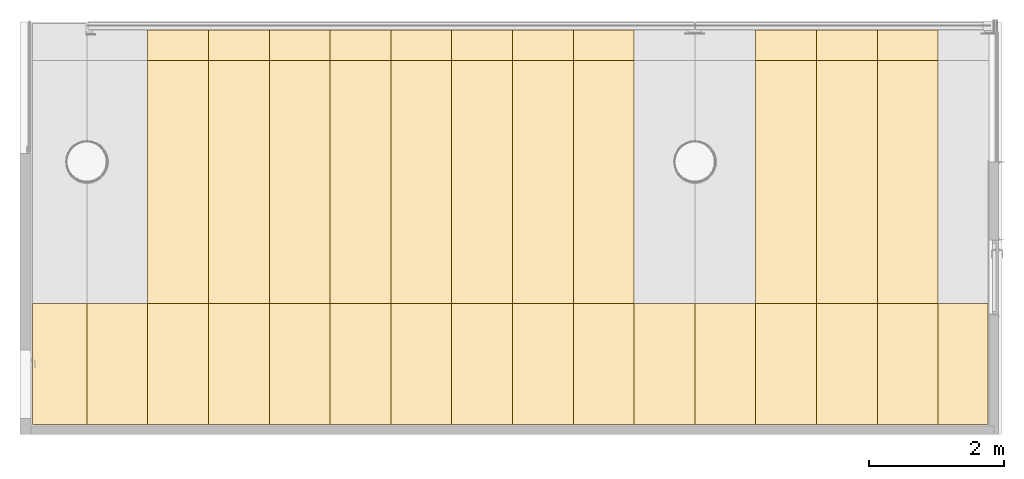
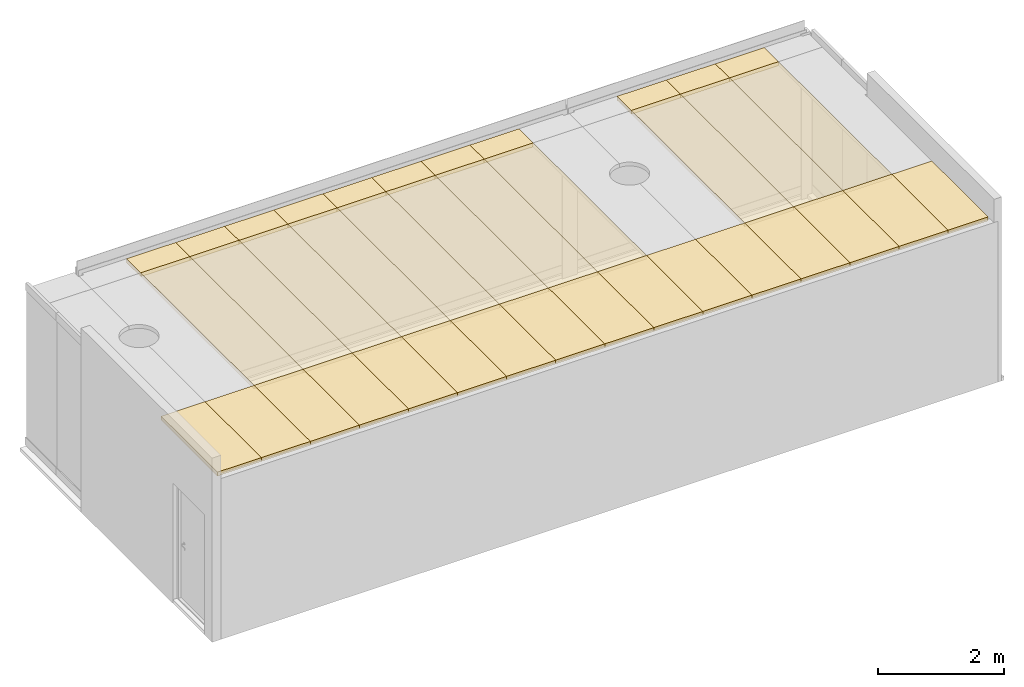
# One storey, part 11 of 12: 38 coverings, 1 element without a shape of its own.
"""IFC2X3 building model written with IfcOpenShell, lengths in millimetres."""

import ifcopenshell
import ifcopenshell.guid

model = None  # the IFC model being written
_history = None  # IfcOwnerHistory: only IFC2X3 demands one
_inside = {}  # id of a spatial element -> (the spatial element, [elements in it])
_under = {}  # id of a project, library or spatial element -> (it, [spatial elements below it])
_declared = {}  # id of a project -> (the project, [libraries it declares])
_typed = {}  # id of a type object -> (the type object, [elements of that type])
_made_of = {}  # id of a material, layer set ... -> (it, [elements and type objects made of it])


def new_model(schema):
    """Start an empty IFC model of exactly this schema.

    Asked for "IFC4X3", IfcOpenShell would pick the latest addendum, in which some entities
    have other attributes; the version numbers below select the first issue.
    IFC2X3 requires an IfcOwnerHistory on every rooted entity: one is made here for all.
    """
    global model, _history
    if schema == "IFC4X3":
        model = ifcopenshell.file(schema_version=(4, 3, 0, 0))
    else:
        model = ifcopenshell.file(schema=schema)
    _inside.clear()
    _under.clear()
    _declared.clear()
    _typed.clear()
    _made_of.clear()
    _history = None
    if model.schema == "IFC2X3":
        org = make("IfcOrganization", Name="unknown")
        user = make(
            "IfcPersonAndOrganization",
            ThePerson=make("IfcPerson", FamilyName="unknown"),
            TheOrganization=org,
        )
        app = make(
            "IfcApplication",
            ApplicationDeveloper=org,
            Version="unknown",
            ApplicationFullName="unknown",
            ApplicationIdentifier="unknown",
        )
        _history = make(
            "IfcOwnerHistory",
            OwningUser=user,
            OwningApplication=app,
            ChangeAction="ADDED",
            CreationDate=0,
        )
    return model


def make(cls, **values):
    """One entity of the class cls with the attributes given. An attribute that is None is left unset."""
    return model.create_entity(
        cls, **{name: value for name, value in values.items() if value is not None}
    )


def entity(cls, *values):
    """Any entity or typed value of the class cls, its attributes in the order of the schema. None: left unset."""
    e = model.create_entity(cls)
    for i, value in enumerate(values):
        if value is not None:
            e[i] = value
    return e


def rooted(cls, **values):
    """An entity with a GlobalId (a new one), such as an element, a storey or a relation."""
    return make(cls, GlobalId=ifcopenshell.guid.new(), OwnerHistory=_history, **values)


def si_unit(unit_type, name, prefix=None):
    """IfcSIUnit, for example si_unit("LENGTHUNIT", "METRE", prefix="MILLI")."""
    return make("IfcSIUnit", UnitType=unit_type, Prefix=prefix, Name=name)


def converted_unit(unit_type, name, factor, base, dimensions=None, offset=None):
    """IfcConversionBasedUnit, such as the inch: factor (a typed value) times the base unit."""
    return make(
        "IfcConversionBasedUnit"
        if offset is None
        else "IfcConversionBasedUnitWithOffset",
        ConversionOffset=offset,
        Dimensions=None
        if dimensions is None
        else entity("IfcDimensionalExponents", *dimensions),
        UnitType=unit_type,
        Name=name,
        ConversionFactor=make(
            "IfcMeasureWithUnit", ValueComponent=factor, UnitComponent=base
        ),
    )


def derived_unit(unit_type, elements):
    """IfcDerivedUnit: a product of units, each with its exponent."""
    return make(
        "IfcDerivedUnit",
        Elements=[
            make("IfcDerivedUnitElement", Unit=unit, Exponent=power)
            for unit, power in elements
        ],
        UnitType=unit_type,
    )


def assignment(units):
    """IfcUnitAssignment: the units of a project."""
    return None if units is None else make("IfcUnitAssignment", Units=units)


def point(xyz):
    """IfcCartesianPoint."""
    return None if xyz is None else make("IfcCartesianPoint", Coordinates=xyz)


def direction(xyz):
    """IfcDirection."""
    return None if xyz is None else make("IfcDirection", DirectionRatios=xyz)


def frame(location, z_axis=None, x_axis=None):
    """IfcAxis2Placement3D, a coordinate frame: its origin and axes. An axis left out is left unset."""
    return make(
        "IfcAxis2Placement3D",
        Location=point(location),
        Axis=direction(z_axis),
        RefDirection=direction(x_axis),
    )


def frame_2d(location, x_axis=None):
    """IfcAxis2Placement2D, a coordinate frame in the plane: its origin and x axis."""
    return make(
        "IfcAxis2Placement2D", Location=point(location), RefDirection=direction(x_axis)
    )


def origin():
    """The frame at (0, 0, 0) with its axes left unset."""
    return frame((0.0, 0.0, 0.0))


def origin_with_axes():
    """The frame at (0, 0, 0) with the z axis (0, 0, 1) and the x axis (1, 0, 0) written out."""
    return frame((0.0, 0.0, 0.0), z_axis=(0.0, 0.0, 1.0), x_axis=(1.0, 0.0, 0.0))


def origin_2d_with_axis():
    """The frame at (0, 0) in the plane with the x axis (1, 0) written out."""
    return frame_2d((0.0, 0.0), x_axis=(1.0, 0.0))


def place(relative_to, where):
    """IfcLocalPlacement: puts the frame where relative to a parent placement (None: the world)."""
    return make(
        "IfcLocalPlacement", PlacementRelTo=relative_to, RelativePlacement=where
    )


def context(
    kind, dimensions, precision=None, world=None, true_north=None, identifier=None
):
    """IfcGeometricRepresentationContext, for example the 3D "Model" context."""
    return make(
        "IfcGeometricRepresentationContext",
        ContextIdentifier=identifier,
        ContextType=kind,
        CoordinateSpaceDimension=dimensions,
        Precision=precision,
        WorldCoordinateSystem=world,
        TrueNorth=true_north,
    )


def subcontext(parent, identifier, kind, view, scale=None):
    """IfcGeometricRepresentationSubContext, for example "Body" below "Model"."""
    return make(
        "IfcGeometricRepresentationSubContext",
        ContextIdentifier=identifier,
        ContextType=kind,
        ParentContext=parent,
        TargetScale=scale,
        TargetView=view,
    )


def project(units=None, contexts=None):
    """IfcProject with its units and contexts."""
    return rooted(
        "IfcProject",
        Name="project",
        RepresentationContexts=contexts,
        UnitsInContext=assignment(units),
    )


def spatial(cls, under=None, at=None, **own):
    """A site, building, storey or space (cls), placed at a placement, below another one or the project."""
    s = rooted(cls, ObjectPlacement=at, **own)
    if under is not None:
        _under.setdefault(under.id(), (under, []))[1].append(s)
    return s


def profile(cls, at=None, kind="AREA", **sizes):
    """A parametric profile (cls). Its sizes go by their IFC names, for example OverallWidth=200.0."""
    return make(cls, ProfileType=kind, Position=at, **sizes)


def rectangle(**sizes):
    """IfcRectangleProfileDef."""
    return profile("IfcRectangleProfileDef", **sizes)


def extrude(swept, where, along, depth):
    """IfcExtrudedAreaSolid: the profile swept, set in the frame where, extruded along a direction by depth."""
    return make(
        "IfcExtrudedAreaSolid",
        SweptArea=swept,
        Position=where,
        ExtrudedDirection=direction(along),
        Depth=depth,
    )


def shape(context_of_items, identifier, shape_type, items):
    """IfcShapeRepresentation: the items that make up one representation, for example the "Body"."""
    return make(
        "IfcShapeRepresentation",
        ContextOfItems=context_of_items,
        RepresentationIdentifier=identifier,
        RepresentationType=shape_type,
        Items=items,
    )


def source(mapping_origin, context_of_items, identifier, shape_type, items):
    """IfcRepresentationMap: a shape defined once, which mapped items show again and again."""
    return make(
        "IfcRepresentationMap",
        MappingOrigin=mapping_origin,
        MappedRepresentation=shape(context_of_items, identifier, shape_type, items),
    )


def transform(
    local_origin,
    x_axis=None,
    y_axis=None,
    z_axis=None,
    scale=None,
    scale2=None,
    scale3=None,
    uniform=True,
):
    """IfcCartesianTransformationOperator3D, or its non-uniform kind. x_axis, y_axis, z_axis: its Axis1, 2, 3."""
    if uniform:
        return make(
            "IfcCartesianTransformationOperator3D",
            Axis1=direction(x_axis),
            Axis2=direction(y_axis),
            LocalOrigin=point(local_origin),
            Scale=scale,
            Axis3=direction(z_axis),
        )
    return make(
        "IfcCartesianTransformationOperator3DnonUniform",
        Axis1=direction(x_axis),
        Axis2=direction(y_axis),
        LocalOrigin=point(local_origin),
        Scale=scale,
        Axis3=direction(z_axis),
        Scale2=scale2,
        Scale3=scale3,
    )


def mapped(mapping_source, mapping_target):
    """IfcMappedItem: shows the shape of a source again, moved by a transform."""
    return make(
        "IfcMappedItem", MappingSource=mapping_source, MappingTarget=mapping_target
    )


def material(Name=None, Category=None):
    """IfcMaterial."""
    return make("IfcMaterial", Name=Name, Category=Category)


def made_of(thing, what):
    """Note that an element or type object is made of a material, layer set ...; save() writes the relation."""
    if what is not None:
        _made_of.setdefault(what.id(), (what, []))[1].append(thing)
    return thing


def type_object(cls, material=None, **own):
    """A type object (cls), such as IfcWallType, which elements share."""
    return made_of(rooted(cls, **own), material)


def element(
    cls,
    number,
    at=None,
    inside=None,
    cuts=None,
    type_object=None,
    material=None,
    context=None,
    identifier="Body",
    shape_type=None,
    held_by="IfcProductDefinitionShape",
    body=None,
    shapes=None,
    **own,
):
    """One element of the class cls, such as IfcWall. Its Tag is "e" and its number.

    at: its placement. inside: the storey or other place that contains it. cuts: it is an
    opening in that element (IfcRelVoidsElement). A single representation is given by context,
    identifier, shape_type and body (its items); several are given by shapes. held_by: the class
    of the entity that holds the representations. save() writes the other relations.
    """
    e = rooted(cls, Tag="e%d" % number, ObjectPlacement=at, **own)
    if body is not None:
        shapes = [shape(context, identifier, shape_type, body)]
    if shapes is not None:
        e.Representation = make(held_by, Representations=shapes)
    if inside is not None:
        _inside.setdefault(inside.id(), (inside, []))[1].append(e)
    if cuts is not None:
        rooted(
            "IfcRelVoidsElement", RelatingBuildingElement=cuts, RelatedOpeningElement=e
        )
    if type_object is not None:
        _typed.setdefault(type_object.id(), (type_object, []))[1].append(e)
    return made_of(e, material)


def aggregate(whole, parts):
    """IfcRelAggregates: a whole, such as a stair, and the parts it consists of."""
    return rooted("IfcRelAggregates", RelatingObject=whole, RelatedObjects=parts)


def save(model, path):
    """Write the relations noted so far, then the file.

    IfcRelAggregates (storeys below a building ...), IfcRelContainedInSpatialStructure (elements
    in a storey), IfcRelDefinesByType, IfcRelAssociatesMaterial and IfcRelDeclares: one each for
    every whole, place, type object, material and project.
    """
    for whole, parts in _under.values():
        aggregate(whole, parts)
    for where, things in _inside.values():
        rooted(
            "IfcRelContainedInSpatialStructure",
            RelatedElements=things,
            RelatingStructure=where,
        )
    for kind, things in _typed.values():
        rooted("IfcRelDefinesByType", RelatedObjects=things, RelatingType=kind)
    for what, things in _made_of.values():
        rooted("IfcRelAssociatesMaterial", RelatedObjects=things, RelatingMaterial=what)
    for by, libraries in _declared.values():
        rooted("IfcRelDeclares", RelatingContext=by, RelatedDefinitions=libraries)
    model.write(path)


model = new_model("IFC2X3")

# Units and contexts
model_context = context("Model", 3, precision=0.01, world=frame((0.0, 4.29681676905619e-09, 0.0)), true_north=direction((6.12323399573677e-17, 1.0)))
plan_context = context("Plan", 3, precision=0.01, world=frame((0.0, 4.29681676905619e-09, 0.0)), true_north=direction((6.12323399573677e-17, 1.0)))
body_context = subcontext(model_context, "Body", "Model", "MODEL_VIEW")
ifc_project = project(units=[converted_unit("PLANEANGLEUNIT", "DEGREE", entity("IfcPositiveLengthMeasure", 0.0174532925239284), si_unit("PLANEANGLEUNIT", "RADIAN"), dimensions=[0, 0, 0, 0, 0, 0, 0]), si_unit("AREAUNIT", "SQUARE_METRE"), si_unit("LENGTHUNIT", "METRE", prefix="MILLI"), si_unit("MASSUNIT", "GRAM", prefix="KILO"), si_unit("POWERUNIT", "WATT"), si_unit("PRESSUREUNIT", "PASCAL", prefix="KILO"), si_unit("FORCEUNIT", "NEWTON", prefix="KILO"), si_unit("ELECTRICVOLTAGEUNIT", "VOLT"), si_unit("ELECTRICCURRENTUNIT", "AMPERE"), si_unit("THERMODYNAMICTEMPERATUREUNIT", "DEGREE_CELSIUS"), si_unit("TIMEUNIT", "SECOND"), si_unit("VOLUMEUNIT", "CUBIC_METRE"), derived_unit("LINEARVELOCITYUNIT", [(si_unit("LENGTHUNIT", "METRE"), 1), (si_unit("TIMEUNIT", "SECOND"), -1)]), derived_unit("VOLUMETRICFLOWRATEUNIT", [(si_unit("VOLUMEUNIT", "CUBIC_METRE"), 1), (si_unit("TIMEUNIT", "SECOND"), -1)]), derived_unit("THERMALTRANSMITTANCEUNIT", [(si_unit("POWERUNIT", "WATT"), 1), (si_unit("THERMODYNAMICTEMPERATUREUNIT", "KELVIN"), -1), (si_unit("AREAUNIT", "SQUARE_METRE"), -1)]), derived_unit("SOUNDPRESSUREUNIT", [(si_unit("PRESSUREUNIT", "PASCAL"), 1)])], contexts=[model_context, plan_context])

# Site, building, storey
site_placement = place(None, origin_with_axes())
site = spatial("IfcSite", under=ifc_project, at=site_placement, Name="ENGM", CompositionType="ELEMENT")
building_placement = place(site_placement, origin_with_axes())
building = spatial("IfcBuilding", under=site, at=building_placement, Name="TH", CompositionType="ELEMENT")
storey_placement = place(building_placement, frame((0.0, 0.0, 210200.0), z_axis=(0.0, 0.0, 1.0), x_axis=(1.0, 0.0, 0.0)))
storey = spatial("IfcBuildingStorey", under=building, at=storey_placement, Name="Nivå F - 0,7 m", CompositionType="ELEMENT", Elevation=210200.0)

# Coverings
covering_1_placement = place(storey_placement, frame((0.0, 0.0, -210200.0), z_axis=(0.0, 0.0, 1.0), x_axis=(1.0, 0.0, 0.0)))
covering_1 = element("IfcCovering", 1, at=covering_1_placement, inside=storey, Name="Sloped Glazing:A255 - HI-L01- Lamellhimling", ObjectType="Sloped Glazing:A255 - HI-L01- Lamellhimling", PredefinedType="CEILING")
ifc_material = material(Name="lamellhimling(Panel)")
covering_type_1 = type_object("IfcCoveringType", Name="A255 - HI-L01 - Panel:A255 - HI-L01 - Panel", PredefinedType="CEILING", material=ifc_material)
shared_shape_1 = source(origin(), body_context, "Body", "SweptSolid", [
    extrude(rectangle(XDim=75.0000000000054, YDim=805.000000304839, at=origin_2d_with_axis()), frame((0.0, -37.5000000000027, 0.0), z_axis=(0.0, 0.0, 1.0), x_axis=(0.0, 1.0, 0.0)), (0.0, 0.0, 1.0), 1789.99999999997),
])
covering_2_placement = place(covering_1_placement, frame((1116597.50000016, 462512.499999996, 213200.0), z_axis=(0.0, 1.0, 0.0), x_axis=(1.0, 0.0, 0.0)))
covering_2 = element("IfcCovering", 2, at=covering_2_placement, type_object=covering_type_1, material=ifc_material, Name="A255 - HI-L01 - Panel:A255 - HI-L01 - Panel", ObjectType="A255 - HI-L01 - Panel:A255 - HI-L01 - Panel", PredefinedType="CEILING", context=body_context, shape_type="MappedRepresentation", body=[
    mapped(shared_shape_1, transform((0.0, 0.0, 0.0), scale=1.0)),
])
covering_type_2 = type_object("IfcCoveringType", Name="A255 - HI-L01 - Panel:A255 - HI-L01 - Panel", PredefinedType="CEILING", material=ifc_material)
shared_shape_2 = source(origin(), body_context, "Body", "SweptSolid", [
    extrude(rectangle(XDim=75.0000000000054, YDim=900.000000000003, at=origin_2d_with_axis()), frame((0.0, -37.5000000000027, 0.0), z_axis=(0.0, 0.0, 1.0), x_axis=(0.0, 1.0, 0.0)), (0.0, 0.0, 1.0), 1789.99999999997),
])
covering_3_placement = place(covering_1_placement, frame((1117450.00000031, 462512.499999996, 213200.0), z_axis=(0.0, 1.0, 0.0), x_axis=(1.0, 0.0, 0.0)))
covering_3 = element("IfcCovering", 3, at=covering_3_placement, type_object=covering_type_2, material=ifc_material, Name="A255 - HI-L01 - Panel:A255 - HI-L01 - Panel", ObjectType="A255 - HI-L01 - Panel:A255 - HI-L01 - Panel", PredefinedType="CEILING", context=body_context, shape_type="MappedRepresentation", body=[
    mapped(shared_shape_2, transform((0.0, 0.0, 0.0), scale=1.0)),
])
covering_4_placement = place(covering_1_placement, frame((1118350.00000031, 462512.499999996, 213200.0), z_axis=(0.0, 1.0, 0.0), x_axis=(1.0, 0.0, 0.0)))
covering_4 = element("IfcCovering", 4, at=covering_4_placement, type_object=covering_type_2, material=ifc_material, Name="A255 - HI-L01 - Panel:A255 - HI-L01 - Panel", ObjectType="A255 - HI-L01 - Panel:A255 - HI-L01 - Panel", PredefinedType="CEILING", context=body_context, shape_type="MappedRepresentation", body=[
    mapped(shared_shape_2, transform((0.0, 0.0, 0.0), scale=1.0)),
])
covering_5_placement = place(covering_1_placement, frame((1119250.00000031, 462512.499999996, 213200.0), z_axis=(0.0, 1.0, 0.0), x_axis=(1.0, 0.0, 0.0)))
covering_5 = element("IfcCovering", 5, at=covering_5_placement, type_object=covering_type_2, material=ifc_material, Name="A255 - HI-L01 - Panel:A255 - HI-L01 - Panel", ObjectType="A255 - HI-L01 - Panel:A255 - HI-L01 - Panel", PredefinedType="CEILING", context=body_context, shape_type="MappedRepresentation", body=[
    mapped(shared_shape_2, transform((0.0, 0.0, 0.0), scale=1.0)),
])
covering_6_placement = place(covering_1_placement, frame((1120150.00000031, 462512.499999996, 213200.0), z_axis=(0.0, 1.0, 0.0), x_axis=(1.0, 0.0, 0.0)))
covering_6 = element("IfcCovering", 6, at=covering_6_placement, type_object=covering_type_2, material=ifc_material, Name="A255 - HI-L01 - Panel:A255 - HI-L01 - Panel", ObjectType="A255 - HI-L01 - Panel:A255 - HI-L01 - Panel", PredefinedType="CEILING", context=body_context, shape_type="MappedRepresentation", body=[
    mapped(shared_shape_2, transform((0.0, 0.0, 0.0), scale=1.0)),
])
covering_7_placement = place(covering_1_placement, frame((1121050.00000031, 462512.499999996, 213200.0), z_axis=(0.0, 1.0, 0.0), x_axis=(1.0, 0.0, 0.0)))
covering_7 = element("IfcCovering", 7, at=covering_7_placement, type_object=covering_type_2, material=ifc_material, Name="A255 - HI-L01 - Panel:A255 - HI-L01 - Panel", ObjectType="A255 - HI-L01 - Panel:A255 - HI-L01 - Panel", PredefinedType="CEILING", context=body_context, shape_type="MappedRepresentation", body=[
    mapped(shared_shape_2, transform((0.0, 0.0, 0.0), scale=1.0)),
])
covering_8_placement = place(covering_1_placement, frame((1121950.00000031, 462512.499999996, 213200.0), z_axis=(0.0, 1.0, 0.0), x_axis=(1.0, 0.0, 0.0)))
covering_8 = element("IfcCovering", 8, at=covering_8_placement, type_object=covering_type_2, material=ifc_material, Name="A255 - HI-L01 - Panel:A255 - HI-L01 - Panel", ObjectType="A255 - HI-L01 - Panel:A255 - HI-L01 - Panel", PredefinedType="CEILING", context=body_context, shape_type="MappedRepresentation", body=[
    mapped(shared_shape_2, transform((0.0, 0.0, 0.0), scale=1.0)),
])
covering_9_placement = place(covering_1_placement, frame((1122850.00000031, 462512.499999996, 213200.0), z_axis=(0.0, 1.0, 0.0), x_axis=(1.0, 0.0, 0.0)))
covering_9 = element("IfcCovering", 9, at=covering_9_placement, type_object=covering_type_2, material=ifc_material, Name="A255 - HI-L01 - Panel:A255 - HI-L01 - Panel", ObjectType="A255 - HI-L01 - Panel:A255 - HI-L01 - Panel", PredefinedType="CEILING", context=body_context, shape_type="MappedRepresentation", body=[
    mapped(shared_shape_2, transform((0.0, 0.0, 0.0), scale=1.0)),
])
covering_10_placement = place(covering_1_placement, frame((1123750.00000031, 462512.499999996, 213200.0), z_axis=(0.0, 1.0, 0.0), x_axis=(1.0, 0.0, 0.0)))
covering_10 = element("IfcCovering", 10, at=covering_10_placement, type_object=covering_type_2, material=ifc_material, Name="A255 - HI-L01 - Panel:A255 - HI-L01 - Panel", ObjectType="A255 - HI-L01 - Panel:A255 - HI-L01 - Panel", PredefinedType="CEILING", context=body_context, shape_type="MappedRepresentation", body=[
    mapped(shared_shape_2, transform((0.0, 0.0, 0.0), scale=1.0)),
])
covering_11_placement = place(covering_1_placement, frame((1124650.00000031, 462512.499999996, 213200.0), z_axis=(0.0, 1.0, 0.0), x_axis=(1.0, 0.0, 0.0)))
covering_11 = element("IfcCovering", 11, at=covering_11_placement, type_object=covering_type_2, material=ifc_material, Name="A255 - HI-L01 - Panel:A255 - HI-L01 - Panel", ObjectType="A255 - HI-L01 - Panel:A255 - HI-L01 - Panel", PredefinedType="CEILING", context=body_context, shape_type="MappedRepresentation", body=[
    mapped(shared_shape_2, transform((0.0, 0.0, 0.0), scale=1.0)),
])
covering_12_placement = place(covering_1_placement, frame((1125550.00000031, 462512.499999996, 213200.0), z_axis=(0.0, 1.0, 0.0), x_axis=(1.0, 0.0, 0.0)))
covering_12 = element("IfcCovering", 12, at=covering_12_placement, type_object=covering_type_2, material=ifc_material, Name="A255 - HI-L01 - Panel:A255 - HI-L01 - Panel", ObjectType="A255 - HI-L01 - Panel:A255 - HI-L01 - Panel", PredefinedType="CEILING", context=body_context, shape_type="MappedRepresentation", body=[
    mapped(shared_shape_2, transform((0.0, 0.0, 0.0), scale=1.0)),
])
covering_13_placement = place(covering_1_placement, frame((1126450.00000031, 462512.499999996, 213200.0), z_axis=(0.0, 1.0, 0.0), x_axis=(1.0, 0.0, 0.0)))
covering_13 = element("IfcCovering", 13, at=covering_13_placement, type_object=covering_type_2, material=ifc_material, Name="A255 - HI-L01 - Panel:A255 - HI-L01 - Panel", ObjectType="A255 - HI-L01 - Panel:A255 - HI-L01 - Panel", PredefinedType="CEILING", context=body_context, shape_type="MappedRepresentation", body=[
    mapped(shared_shape_2, transform((0.0, 0.0, 0.0), scale=1.0)),
])
covering_14_placement = place(covering_1_placement, frame((1127350.00000031, 462512.499999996, 213200.0), z_axis=(0.0, 1.0, 0.0), x_axis=(1.0, 0.0, 0.0)))
covering_14 = element("IfcCovering", 14, at=covering_14_placement, type_object=covering_type_2, material=ifc_material, Name="A255 - HI-L01 - Panel:A255 - HI-L01 - Panel", ObjectType="A255 - HI-L01 - Panel:A255 - HI-L01 - Panel", PredefinedType="CEILING", context=body_context, shape_type="MappedRepresentation", body=[
    mapped(shared_shape_2, transform((0.0, 0.0, 0.0), scale=1.0)),
])
covering_15_placement = place(covering_1_placement, frame((1128250.00000031, 462512.499999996, 213200.0), z_axis=(0.0, 1.0, 0.0), x_axis=(1.0, 0.0, 0.0)))
covering_15 = element("IfcCovering", 15, at=covering_15_placement, type_object=covering_type_2, material=ifc_material, Name="A255 - HI-L01 - Panel:A255 - HI-L01 - Panel", ObjectType="A255 - HI-L01 - Panel:A255 - HI-L01 - Panel", PredefinedType="CEILING", context=body_context, shape_type="MappedRepresentation", body=[
    mapped(shared_shape_2, transform((0.0, 0.0, 0.0), scale=1.0)),
])
covering_16_placement = place(covering_1_placement, frame((1129150.00000031, 462512.499999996, 213200.0), z_axis=(0.0, 1.0, 0.0), x_axis=(1.0, 0.0, 0.0)))
covering_16 = element("IfcCovering", 16, at=covering_16_placement, type_object=covering_type_2, material=ifc_material, Name="A255 - HI-L01 - Panel:A255 - HI-L01 - Panel", ObjectType="A255 - HI-L01 - Panel:A255 - HI-L01 - Panel", PredefinedType="CEILING", context=body_context, shape_type="MappedRepresentation", body=[
    mapped(shared_shape_2, transform((0.0, 0.0, 0.0), scale=1.0)),
])
covering_type_3 = type_object("IfcCoveringType", Name="A255 - HI-L01 - Panel:A255 - HI-L01 - Panel", PredefinedType="CEILING", material=ifc_material)
shared_shape_3 = source(origin(), body_context, "Body", "SweptSolid", [
    extrude(rectangle(XDim=75.0000000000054, YDim=734.799841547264, at=origin_2d_with_axis()), frame((0.0, -37.5000000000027, 0.0), z_axis=(0.0, 0.0, 1.0), x_axis=(0.0, 1.0, 0.0)), (0.0, 0.0, 1.0), 1789.99999999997),
])
covering_17_placement = place(covering_1_placement, frame((1129967.39992108, 462512.499999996, 213200.0), z_axis=(0.0, 1.0, 0.0), x_axis=(1.0, 0.0, 0.0)))
covering_17 = element("IfcCovering", 17, at=covering_17_placement, type_object=covering_type_3, material=ifc_material, Name="A255 - HI-L01 - Panel:A255 - HI-L01 - Panel", ObjectType="A255 - HI-L01 - Panel:A255 - HI-L01 - Panel", PredefinedType="CEILING", context=body_context, shape_type="MappedRepresentation", body=[
    mapped(shared_shape_3, transform((0.0, 0.0, 0.0), scale=1.0)),
])
covering_type_4 = type_object("IfcCoveringType", Name="A255 - HI-L01 - Panel:A255 - HI-L01 - Panel", PredefinedType="CEILING", material=ifc_material)
shared_shape_4 = source(origin(), body_context, "Body", "SweptSolid", [
    extrude(rectangle(XDim=75.0000000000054, YDim=900.000000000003, at=origin_2d_with_axis()), frame((0.0, -37.5000000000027, 0.0), z_axis=(0.0, 0.0, 1.0), x_axis=(0.0, 1.0, 0.0)), (0.0, 0.0, 1.0), 3600.00000000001),
])
covering_18_placement = place(covering_1_placement, frame((1118350.00000031, 464302.499999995, 213200.0), z_axis=(0.0, 1.0, 0.0), x_axis=(1.0, 0.0, 0.0)))
covering_18 = element("IfcCovering", 18, at=covering_18_placement, type_object=covering_type_4, material=ifc_material, Name="A255 - HI-L01 - Panel:A255 - HI-L01 - Panel", ObjectType="A255 - HI-L01 - Panel:A255 - HI-L01 - Panel", PredefinedType="CEILING", context=body_context, shape_type="MappedRepresentation", body=[
    mapped(shared_shape_4, transform((0.0, 0.0, 0.0), scale=1.0)),
])
covering_19_placement = place(covering_1_placement, frame((1119250.00000031, 464302.499999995, 213200.0), z_axis=(0.0, 1.0, 0.0), x_axis=(1.0, 0.0, 0.0)))
covering_19 = element("IfcCovering", 19, at=covering_19_placement, type_object=covering_type_4, material=ifc_material, Name="A255 - HI-L01 - Panel:A255 - HI-L01 - Panel", ObjectType="A255 - HI-L01 - Panel:A255 - HI-L01 - Panel", PredefinedType="CEILING", context=body_context, shape_type="MappedRepresentation", body=[
    mapped(shared_shape_4, transform((0.0, 0.0, 0.0), scale=1.0)),
])
covering_20_placement = place(covering_1_placement, frame((1120150.00000031, 464302.499999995, 213200.0), z_axis=(0.0, 1.0, 0.0), x_axis=(1.0, 0.0, 0.0)))
covering_20 = element("IfcCovering", 20, at=covering_20_placement, type_object=covering_type_4, material=ifc_material, Name="A255 - HI-L01 - Panel:A255 - HI-L01 - Panel", ObjectType="A255 - HI-L01 - Panel:A255 - HI-L01 - Panel", PredefinedType="CEILING", context=body_context, shape_type="MappedRepresentation", body=[
    mapped(shared_shape_4, transform((0.0, 0.0, 0.0), scale=1.0)),
])
covering_21_placement = place(covering_1_placement, frame((1121050.00000031, 464302.499999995, 213200.0), z_axis=(0.0, 1.0, 0.0), x_axis=(1.0, 0.0, 0.0)))
covering_21 = element("IfcCovering", 21, at=covering_21_placement, type_object=covering_type_4, material=ifc_material, Name="A255 - HI-L01 - Panel:A255 - HI-L01 - Panel", ObjectType="A255 - HI-L01 - Panel:A255 - HI-L01 - Panel", PredefinedType="CEILING", context=body_context, shape_type="MappedRepresentation", body=[
    mapped(shared_shape_4, transform((0.0, 0.0, 0.0), scale=1.0)),
])
covering_22_placement = place(covering_1_placement, frame((1121950.00000031, 464302.499999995, 213200.0), z_axis=(0.0, 1.0, 0.0), x_axis=(1.0, 0.0, 0.0)))
covering_22 = element("IfcCovering", 22, at=covering_22_placement, type_object=covering_type_4, material=ifc_material, Name="A255 - HI-L01 - Panel:A255 - HI-L01 - Panel", ObjectType="A255 - HI-L01 - Panel:A255 - HI-L01 - Panel", PredefinedType="CEILING", context=body_context, shape_type="MappedRepresentation", body=[
    mapped(shared_shape_4, transform((0.0, 0.0, 0.0), scale=1.0)),
])
covering_23_placement = place(covering_1_placement, frame((1122850.00000031, 464302.499999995, 213200.0), z_axis=(0.0, 1.0, 0.0), x_axis=(1.0, 0.0, 0.0)))
covering_23 = element("IfcCovering", 23, at=covering_23_placement, type_object=covering_type_4, material=ifc_material, Name="A255 - HI-L01 - Panel:A255 - HI-L01 - Panel", ObjectType="A255 - HI-L01 - Panel:A255 - HI-L01 - Panel", PredefinedType="CEILING", context=body_context, shape_type="MappedRepresentation", body=[
    mapped(shared_shape_4, transform((0.0, 0.0, 0.0), scale=1.0)),
])
covering_24_placement = place(covering_1_placement, frame((1123750.00000031, 464302.499999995, 213200.0), z_axis=(0.0, 1.0, 0.0), x_axis=(1.0, 0.0, 0.0)))
covering_24 = element("IfcCovering", 24, at=covering_24_placement, type_object=covering_type_4, material=ifc_material, Name="A255 - HI-L01 - Panel:A255 - HI-L01 - Panel", ObjectType="A255 - HI-L01 - Panel:A255 - HI-L01 - Panel", PredefinedType="CEILING", context=body_context, shape_type="MappedRepresentation", body=[
    mapped(shared_shape_4, transform((0.0, 0.0, 0.0), scale=1.0)),
])
covering_25_placement = place(covering_1_placement, frame((1124650.00000031, 464302.499999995, 213200.0), z_axis=(0.0, 1.0, 0.0), x_axis=(1.0, 0.0, 0.0)))
covering_25 = element("IfcCovering", 25, at=covering_25_placement, type_object=covering_type_4, material=ifc_material, Name="A255 - HI-L01 - Panel:A255 - HI-L01 - Panel", ObjectType="A255 - HI-L01 - Panel:A255 - HI-L01 - Panel", PredefinedType="CEILING", context=body_context, shape_type="MappedRepresentation", body=[
    mapped(shared_shape_4, transform((0.0, 0.0, 0.0), scale=1.0)),
])
covering_26_placement = place(covering_1_placement, frame((1127350.00000031, 464302.499999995, 213200.0), z_axis=(0.0, 1.0, 0.0), x_axis=(1.0, 0.0, 0.0)))
covering_26 = element("IfcCovering", 26, at=covering_26_placement, type_object=covering_type_4, material=ifc_material, Name="A255 - HI-L01 - Panel:A255 - HI-L01 - Panel", ObjectType="A255 - HI-L01 - Panel:A255 - HI-L01 - Panel", PredefinedType="CEILING", context=body_context, shape_type="MappedRepresentation", body=[
    mapped(shared_shape_4, transform((0.0, 0.0, 0.0), scale=1.0)),
])
covering_27_placement = place(covering_1_placement, frame((1128250.00000031, 464302.499999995, 213200.0), z_axis=(0.0, 1.0, 0.0), x_axis=(1.0, 0.0, 0.0)))
covering_27 = element("IfcCovering", 27, at=covering_27_placement, type_object=covering_type_4, material=ifc_material, Name="A255 - HI-L01 - Panel:A255 - HI-L01 - Panel", ObjectType="A255 - HI-L01 - Panel:A255 - HI-L01 - Panel", PredefinedType="CEILING", context=body_context, shape_type="MappedRepresentation", body=[
    mapped(shared_shape_4, transform((0.0, 0.0, 0.0), scale=1.0)),
])
covering_28_placement = place(covering_1_placement, frame((1129150.00000031, 464302.499999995, 213200.0), z_axis=(0.0, 1.0, 0.0), x_axis=(1.0, 0.0, 0.0)))
covering_28 = element("IfcCovering", 28, at=covering_28_placement, type_object=covering_type_4, material=ifc_material, Name="A255 - HI-L01 - Panel:A255 - HI-L01 - Panel", ObjectType="A255 - HI-L01 - Panel:A255 - HI-L01 - Panel", PredefinedType="CEILING", context=body_context, shape_type="MappedRepresentation", body=[
    mapped(shared_shape_4, transform((0.0, 0.0, 0.0), scale=1.0)),
])
covering_type_5 = type_object("IfcCoveringType", Name="A255 - HI-L01 - Panel:A255 - HI-L01 - Panel", PredefinedType="CEILING", material=ifc_material)
shared_shape_5 = source(origin(), body_context, "Body", "SweptSolid", [
    extrude(rectangle(XDim=75.0000000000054, YDim=900.000000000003, at=origin_2d_with_axis()), frame((0.0, -37.5000000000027, 0.0), z_axis=(0.0, 0.0, 1.0), x_axis=(0.0, 1.0, 0.0)), (0.0, 0.0, 1.0), 452.000000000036),
])
covering_29_placement = place(covering_1_placement, frame((1118350.00000031, 467902.499999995, 213200.0), z_axis=(0.0, 1.0, 0.0), x_axis=(1.0, 0.0, 0.0)))
covering_29 = element("IfcCovering", 29, at=covering_29_placement, type_object=covering_type_5, material=ifc_material, Name="A255 - HI-L01 - Panel:A255 - HI-L01 - Panel", ObjectType="A255 - HI-L01 - Panel:A255 - HI-L01 - Panel", PredefinedType="CEILING", context=body_context, shape_type="MappedRepresentation", body=[
    mapped(shared_shape_5, transform((0.0, 0.0, 0.0), scale=1.0)),
])
covering_30_placement = place(covering_1_placement, frame((1119250.00000031, 467902.499999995, 213200.0), z_axis=(0.0, 1.0, 0.0), x_axis=(1.0, 0.0, 0.0)))
covering_30 = element("IfcCovering", 30, at=covering_30_placement, type_object=covering_type_5, material=ifc_material, Name="A255 - HI-L01 - Panel:A255 - HI-L01 - Panel", ObjectType="A255 - HI-L01 - Panel:A255 - HI-L01 - Panel", PredefinedType="CEILING", context=body_context, shape_type="MappedRepresentation", body=[
    mapped(shared_shape_5, transform((0.0, 0.0, 0.0), scale=1.0)),
])
covering_31_placement = place(covering_1_placement, frame((1120150.00000031, 467902.499999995, 213200.0), z_axis=(0.0, 1.0, 0.0), x_axis=(1.0, 0.0, 0.0)))
covering_31 = element("IfcCovering", 31, at=covering_31_placement, type_object=covering_type_5, material=ifc_material, Name="A255 - HI-L01 - Panel:A255 - HI-L01 - Panel", ObjectType="A255 - HI-L01 - Panel:A255 - HI-L01 - Panel", PredefinedType="CEILING", context=body_context, shape_type="MappedRepresentation", body=[
    mapped(shared_shape_5, transform((0.0, 0.0, 0.0), scale=1.0)),
])
covering_32_placement = place(covering_1_placement, frame((1121050.00000031, 467902.499999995, 213200.0), z_axis=(0.0, 1.0, 0.0), x_axis=(1.0, 0.0, 0.0)))
covering_32 = element("IfcCovering", 32, at=covering_32_placement, type_object=covering_type_5, material=ifc_material, Name="A255 - HI-L01 - Panel:A255 - HI-L01 - Panel", ObjectType="A255 - HI-L01 - Panel:A255 - HI-L01 - Panel", PredefinedType="CEILING", context=body_context, shape_type="MappedRepresentation", body=[
    mapped(shared_shape_5, transform((0.0, 0.0, 0.0), scale=1.0)),
])
covering_33_placement = place(covering_1_placement, frame((1121950.00000031, 467902.499999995, 213200.0), z_axis=(0.0, 1.0, 0.0), x_axis=(1.0, 0.0, 0.0)))
covering_33 = element("IfcCovering", 33, at=covering_33_placement, type_object=covering_type_5, material=ifc_material, Name="A255 - HI-L01 - Panel:A255 - HI-L01 - Panel", ObjectType="A255 - HI-L01 - Panel:A255 - HI-L01 - Panel", PredefinedType="CEILING", context=body_context, shape_type="MappedRepresentation", body=[
    mapped(shared_shape_5, transform((0.0, 0.0, 0.0), scale=1.0)),
])
covering_34_placement = place(covering_1_placement, frame((1122850.00000031, 467902.499999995, 213200.0), z_axis=(0.0, 1.0, 0.0), x_axis=(1.0, 0.0, 0.0)))
covering_34 = element("IfcCovering", 34, at=covering_34_placement, type_object=covering_type_5, material=ifc_material, Name="A255 - HI-L01 - Panel:A255 - HI-L01 - Panel", ObjectType="A255 - HI-L01 - Panel:A255 - HI-L01 - Panel", PredefinedType="CEILING", context=body_context, shape_type="MappedRepresentation", body=[
    mapped(shared_shape_5, transform((0.0, 0.0, 0.0), scale=1.0)),
])
covering_35_placement = place(covering_1_placement, frame((1123750.00000031, 467902.499999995, 213200.0), z_axis=(0.0, 1.0, 0.0), x_axis=(1.0, 0.0, 0.0)))
covering_35 = element("IfcCovering", 35, at=covering_35_placement, type_object=covering_type_5, material=ifc_material, Name="A255 - HI-L01 - Panel:A255 - HI-L01 - Panel", ObjectType="A255 - HI-L01 - Panel:A255 - HI-L01 - Panel", PredefinedType="CEILING", context=body_context, shape_type="MappedRepresentation", body=[
    mapped(shared_shape_5, transform((0.0, 0.0, 0.0), scale=1.0)),
])
covering_36_placement = place(covering_1_placement, frame((1124650.00000031, 467902.499999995, 213200.0), z_axis=(0.0, 1.0, 0.0), x_axis=(1.0, 0.0, 0.0)))
covering_36 = element("IfcCovering", 36, at=covering_36_placement, type_object=covering_type_5, material=ifc_material, Name="A255 - HI-L01 - Panel:A255 - HI-L01 - Panel", ObjectType="A255 - HI-L01 - Panel:A255 - HI-L01 - Panel", PredefinedType="CEILING", context=body_context, shape_type="MappedRepresentation", body=[
    mapped(shared_shape_5, transform((0.0, 0.0, 0.0), scale=1.0)),
])
covering_37_placement = place(covering_1_placement, frame((1127350.00000031, 467902.499999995, 213200.0), z_axis=(0.0, 1.0, 0.0), x_axis=(1.0, 0.0, 0.0)))
covering_37 = element("IfcCovering", 37, at=covering_37_placement, type_object=covering_type_5, material=ifc_material, Name="A255 - HI-L01 - Panel:A255 - HI-L01 - Panel", ObjectType="A255 - HI-L01 - Panel:A255 - HI-L01 - Panel", PredefinedType="CEILING", context=body_context, shape_type="MappedRepresentation", body=[
    mapped(shared_shape_5, transform((0.0, 0.0, 0.0), scale=1.0)),
])
covering_38_placement = place(covering_1_placement, frame((1128250.00000031, 467902.499999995, 213200.0), z_axis=(0.0, 1.0, 0.0), x_axis=(1.0, 0.0, 0.0)))
covering_38 = element("IfcCovering", 38, at=covering_38_placement, type_object=covering_type_5, material=ifc_material, Name="A255 - HI-L01 - Panel:A255 - HI-L01 - Panel", ObjectType="A255 - HI-L01 - Panel:A255 - HI-L01 - Panel", PredefinedType="CEILING", context=body_context, shape_type="MappedRepresentation", body=[
    mapped(shared_shape_5, transform((0.0, 0.0, 0.0), scale=1.0)),
])
covering_39_placement = place(covering_1_placement, frame((1129150.00000031, 467902.499999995, 213200.0), z_axis=(0.0, 1.0, 0.0), x_axis=(1.0, 0.0, 0.0)))
covering_39 = element("IfcCovering", 39, at=covering_39_placement, type_object=covering_type_5, material=ifc_material, Name="A255 - HI-L01 - Panel:A255 - HI-L01 - Panel", ObjectType="A255 - HI-L01 - Panel:A255 - HI-L01 - Panel", PredefinedType="CEILING", context=body_context, shape_type="MappedRepresentation", body=[
    mapped(shared_shape_5, transform((0.0, 0.0, 0.0), scale=1.0)),
])
aggregate(covering_1, [covering_2, covering_3, covering_4, covering_5, covering_6, covering_7, covering_8, covering_9, covering_10, covering_11, covering_12, covering_13, covering_14, covering_15, covering_16, covering_17, covering_18, covering_19, covering_20, covering_21, covering_22, covering_23, covering_24, covering_25, covering_26, covering_27, covering_28, covering_29, covering_30, covering_31, covering_32, covering_33, covering_34, covering_35, covering_36, covering_37, covering_38, covering_39])

save(model, "model.ifc")
